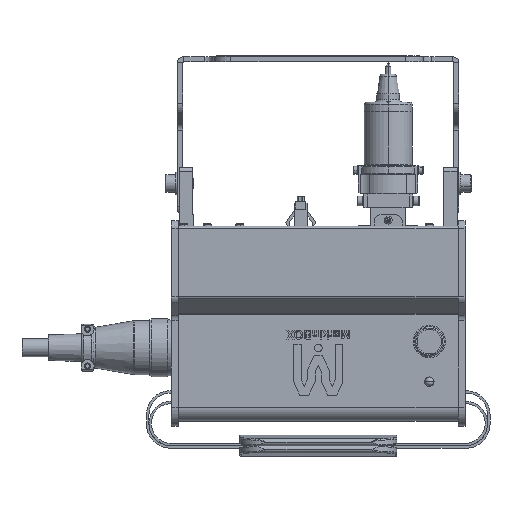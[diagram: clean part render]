
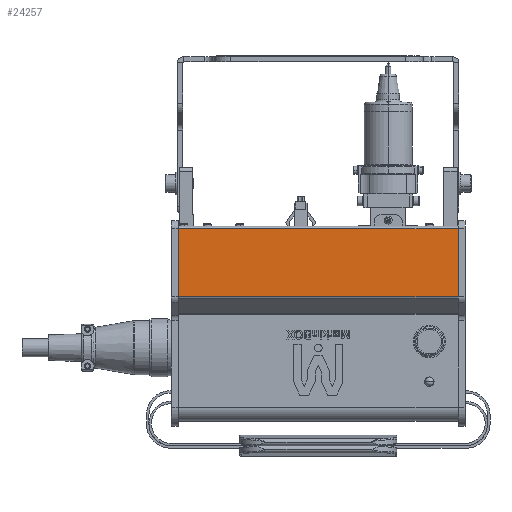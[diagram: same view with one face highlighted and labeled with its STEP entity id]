
A CAD part, front view. The second image highlights one B-rep face of the part: STEP entity #24257.
In plain terms, the highlighted planar face has unit normal (0, -1, 0) as drawn and (0, 0, -1) by its records, which use the part's own axes.
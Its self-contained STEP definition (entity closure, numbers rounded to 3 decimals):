
#1644 = VECTOR ( 'NONE', #6897, 1000. ) ;
#4384 = VECTOR ( 'NONE', #81585, 1000. ) ;
#5788 = LINE ( 'NONE', #85556, #1644 ) ;
#6897 = DIRECTION ( 'NONE',  ( -1., 0., 0. ) ) ;
#8153 = ORIENTED_EDGE ( 'NONE', *, *, #32491, .F. ) ;
#8993 = ORIENTED_EDGE ( 'NONE', *, *, #73215, .T. ) ;
#10223 = VECTOR ( 'NONE', #58357, 1000. ) ;
#12490 = CARTESIAN_POINT ( 'NONE',  ( 80., 40.279, -74. ) ) ;
#14447 = VECTOR ( 'NONE', #88950, 1000. ) ;
#14942 = CARTESIAN_POINT ( 'NONE',  ( 80., 40.5, -74. ) ) ;
#16980 = DIRECTION ( 'NONE',  ( 1., 0., 0. ) ) ;
#17699 = CARTESIAN_POINT ( 'NONE',  ( 80., 11.5, -74. ) ) ;
#18247 = VERTEX_POINT ( 'NONE', #42596 ) ;
#18896 = CARTESIAN_POINT ( 'NONE',  ( 81.5, 11.5, -74. ) ) ;
#19301 = DIRECTION ( 'NONE',  ( -1., 0., 0. ) ) ;
#20892 = VERTEX_POINT ( 'NONE', #100850 ) ;
#21841 = LINE ( 'NONE', #39106, #25520 ) ;
#22564 = VECTOR ( 'NONE', #19301, 1000. ) ;
#23555 = DIRECTION ( 'NONE',  ( -1., 0., 0. ) ) ;
#24257 = ADVANCED_FACE ( 'NONE', ( #113111 ), #32780, .T. ) ;
#24759 = VERTEX_POINT ( 'NONE', #49022 ) ;
#25520 = VECTOR ( 'NONE', #31608, 1000. ) ;
#26730 = LINE ( 'NONE', #72105, #107250 ) ;
#26737 = CARTESIAN_POINT ( 'NONE',  ( -80., 40.5, -74. ) ) ;
#27820 = DIRECTION ( 'NONE',  ( 0., -1., 0. ) ) ;
#29236 = EDGE_CURVE ( 'NONE', #20892, #113513, #46565, .T. ) ;
#29782 = CARTESIAN_POINT ( 'NONE',  ( 80., 1.5, -74. ) ) ;
#30232 = DIRECTION ( 'NONE',  ( -1., 0., 0. ) ) ;
#31480 = VECTOR ( 'NONE', #52590, 1000. ) ;
#31608 = DIRECTION ( 'NONE',  ( 0., -1., 0. ) ) ;
#31989 = EDGE_CURVE ( 'NONE', #55293, #18247, #5788, .T. ) ;
#32218 = EDGE_CURVE ( 'NONE', #48688, #24759, #64705, .T. ) ;
#32491 = EDGE_CURVE ( 'NONE', #46236, #18247, #72036, .T. ) ;
#32780 = PLANE ( 'NONE',  #38236 ) ;
#33072 = EDGE_LOOP ( 'NONE', ( #108436, #8153, #8993, #41436, #57339, #85832, #107424, #104212, #113276, #94128, #55049, #86485 ) ) ;
#36561 = LINE ( 'NONE', #71572, #81175 ) ;
#38236 = AXIS2_PLACEMENT_3D ( 'NONE', #14942, #94736, #23555 ) ;
#39106 = CARTESIAN_POINT ( 'NONE',  ( 80., 40.5, -74. ) ) ;
#40565 = EDGE_CURVE ( 'NONE', #56423, #81026, #112267, .T. ) ;
#41436 = ORIENTED_EDGE ( 'NONE', *, *, #32218, .T. ) ;
#42596 = CARTESIAN_POINT ( 'NONE',  ( -80., 1.5, -74. ) ) ;
#42636 = VERTEX_POINT ( 'NONE', #17699 ) ;
#43387 = DIRECTION ( 'NONE',  ( -1., 0., 0. ) ) ;
#45175 = VERTEX_POINT ( 'NONE', #57960 ) ;
#46236 = VERTEX_POINT ( 'NONE', #107759 ) ;
#46565 = LINE ( 'NONE', #53455, #4384 ) ;
#47687 = EDGE_CURVE ( 'NONE', #45175, #104361, #96778, .T. ) ;
#48688 = VERTEX_POINT ( 'NONE', #50476 ) ;
#49022 = CARTESIAN_POINT ( 'NONE',  ( -81.5, 21.5, -74. ) ) ;
#50476 = CARTESIAN_POINT ( 'NONE',  ( -81.5, 11.5, -74. ) ) ;
#50709 = EDGE_CURVE ( 'NONE', #113513, #42636, #55500, .T. ) ;
#52590 = DIRECTION ( 'NONE',  ( 0., -1., 0. ) ) ;
#53455 = CARTESIAN_POINT ( 'NONE',  ( 81.5, 21.5, -74. ) ) ;
#53662 = CARTESIAN_POINT ( 'NONE',  ( -80., 40.5, -74. ) ) ;
#55049 = ORIENTED_EDGE ( 'NONE', *, *, #50709, .T. ) ;
#55288 = LINE ( 'NONE', #72512, #67831 ) ;
#55293 = VERTEX_POINT ( 'NONE', #29782 ) ;
#55500 = LINE ( 'NONE', #108889, #22564 ) ;
#56423 = VERTEX_POINT ( 'NONE', #104463 ) ;
#57339 = ORIENTED_EDGE ( 'NONE', *, *, #60800, .T. ) ;
#57960 = CARTESIAN_POINT ( 'NONE',  ( -80., 40.279, -74. ) ) ;
#58357 = DIRECTION ( 'NONE',  ( 0., -1., 0. ) ) ;
#58596 = CARTESIAN_POINT ( 'NONE',  ( -80., 21.5, -74. ) ) ;
#60034 = CARTESIAN_POINT ( 'NONE',  ( 80., 40.5, -74. ) ) ;
#60800 = EDGE_CURVE ( 'NONE', #24759, #104361, #26730, .T. ) ;
#64705 = LINE ( 'NONE', #80356, #14447 ) ;
#67661 = VECTOR ( 'NONE', #27820, 1000. ) ;
#67831 = VECTOR ( 'NONE', #97187, 1000. ) ;
#69445 = EDGE_CURVE ( 'NONE', #81026, #20892, #55288, .T. ) ;
#71572 = CARTESIAN_POINT ( 'NONE',  ( -80., 11.5, -74. ) ) ;
#72036 = LINE ( 'NONE', #53662, #67661 ) ;
#72105 = CARTESIAN_POINT ( 'NONE',  ( -80., 21.5, -74. ) ) ;
#72512 = CARTESIAN_POINT ( 'NONE',  ( 81.5, 21.5, -74. ) ) ;
#73215 = EDGE_CURVE ( 'NONE', #46236, #48688, #36561, .T. ) ;
#80356 = CARTESIAN_POINT ( 'NONE',  ( -81.5, 21.5, -74. ) ) ;
#81026 = VERTEX_POINT ( 'NONE', #82273 ) ;
#81175 = VECTOR ( 'NONE', #30232, 1000. ) ;
#81585 = DIRECTION ( 'NONE',  ( 0., -1., 0. ) ) ;
#82273 = CARTESIAN_POINT ( 'NONE',  ( 80., 21.5, -74. ) ) ;
#82377 = EDGE_CURVE ( 'NONE', #56423, #45175, #91147, .T. ) ;
#85556 = CARTESIAN_POINT ( 'NONE',  ( 80., 1.5, -74. ) ) ;
#85832 = ORIENTED_EDGE ( 'NONE', *, *, #47687, .F. ) ;
#86485 = ORIENTED_EDGE ( 'NONE', *, *, #102933, .T. ) ;
#88950 = DIRECTION ( 'NONE',  ( 0., 1., 0. ) ) ;
#91147 = LINE ( 'NONE', #12490, #105971 ) ;
#94128 = ORIENTED_EDGE ( 'NONE', *, *, #29236, .T. ) ;
#94736 = DIRECTION ( 'NONE',  ( 0., 0., -1. ) ) ;
#96778 = LINE ( 'NONE', #26737, #31480 ) ;
#97187 = DIRECTION ( 'NONE',  ( 1., 0., 0. ) ) ;
#100850 = CARTESIAN_POINT ( 'NONE',  ( 81.5, 21.5, -74. ) ) ;
#102933 = EDGE_CURVE ( 'NONE', #42636, #55293, #21841, .T. ) ;
#104212 = ORIENTED_EDGE ( 'NONE', *, *, #40565, .T. ) ;
#104361 = VERTEX_POINT ( 'NONE', #58596 ) ;
#104463 = CARTESIAN_POINT ( 'NONE',  ( 80., 40.279, -74. ) ) ;
#105971 = VECTOR ( 'NONE', #43387, 1000. ) ;
#107250 = VECTOR ( 'NONE', #16980, 1000. ) ;
#107424 = ORIENTED_EDGE ( 'NONE', *, *, #82377, .F. ) ;
#107759 = CARTESIAN_POINT ( 'NONE',  ( -80., 11.5, -74. ) ) ;
#108436 = ORIENTED_EDGE ( 'NONE', *, *, #31989, .T. ) ;
#108889 = CARTESIAN_POINT ( 'NONE',  ( 81.5, 11.5, -74. ) ) ;
#112267 = LINE ( 'NONE', #60034, #10223 ) ;
#113111 = FACE_OUTER_BOUND ( 'NONE', #33072, .T. ) ;
#113276 = ORIENTED_EDGE ( 'NONE', *, *, #69445, .T. ) ;
#113513 = VERTEX_POINT ( 'NONE', #18896 ) ;
